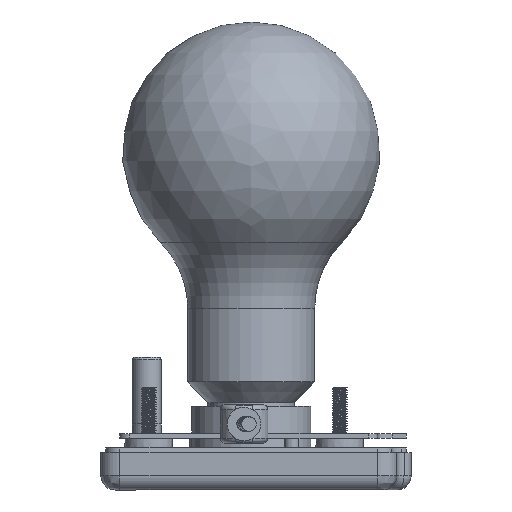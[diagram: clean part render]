
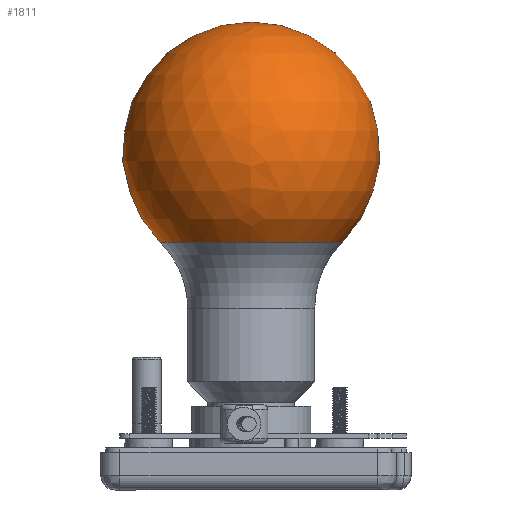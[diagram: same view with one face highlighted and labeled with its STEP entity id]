
A CAD part, front view. The second image highlights one B-rep face of the part: STEP entity #1811.
In plain terms, the highlighted spherical face has radius 27 mm.
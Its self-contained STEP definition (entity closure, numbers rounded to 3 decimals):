
#53=SPHERICAL_SURFACE('',#11401,27.);
#920=FACE_OUTER_BOUND('',#3111,.T.);
#1811=ADVANCED_FACE('',(#920),#53,.T.);
#3111=EDGE_LOOP('',(#6162));
#3677=CIRCLE('',#11400,19.038);
#6162=ORIENTED_EDGE('',*,*,#8719,.T.);
#7388=VERTEX_POINT('',#51419);
#8719=EDGE_CURVE('',#7388,#7388,#3677,.T.);
#11400=AXIS2_PLACEMENT_3D('',#51418,#14125,#14126);
#11401=AXIS2_PLACEMENT_3D('',#51420,#14127,#14128);
#14125=DIRECTION('',(0.,0.,1.));
#14126=DIRECTION('',(-1.,0.,0.));
#14127=DIRECTION('',(0.,0.,1.));
#14128=DIRECTION('',(0.,-1.,0.));
#51418=CARTESIAN_POINT('',(1.5,-0.004,44.028));
#51419=CARTESIAN_POINT('',(-17.538,-0.004,44.028));
#51420=CARTESIAN_POINT('',(1.5,-0.004,63.174));
